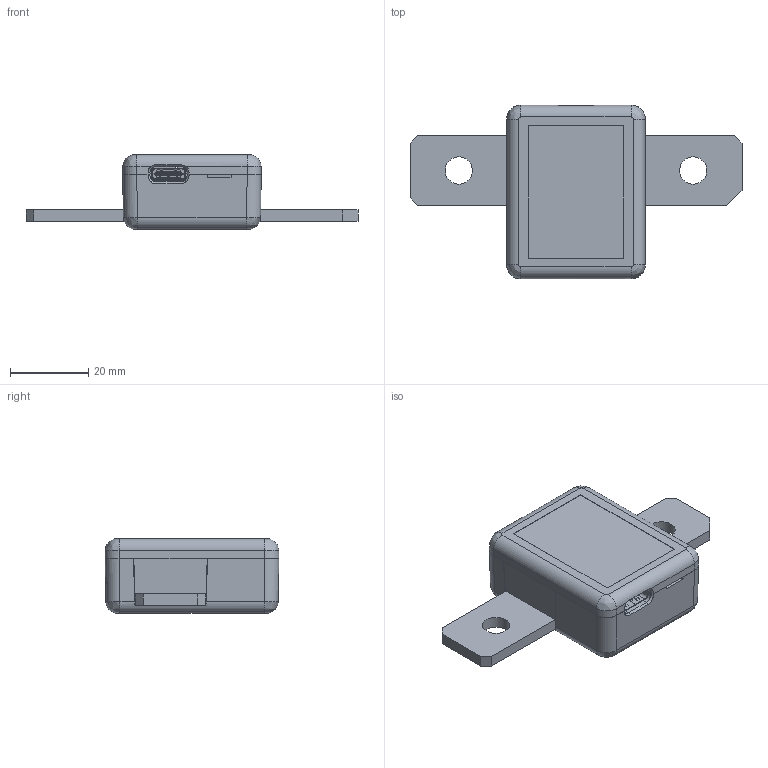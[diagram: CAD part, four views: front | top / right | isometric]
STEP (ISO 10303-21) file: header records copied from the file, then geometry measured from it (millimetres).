
FILE_DESCRIPTION(/* description */ (''),/* implementation_level */ '2;1');
FILE_NAME(/* name */ 'HV-IBSS-USB.stp',/* time_stamp */ '2023-06-26T15:06:06+02:00',/* author */ (''),/* organization */ (''),/* preprocessor_version */ 'ST-DEVELOPER v15.6',/* originating_system */ 'Autodesk Inventor 2015',/* authorisation */ '');
FILE_SCHEMA (('AUTOMOTIVE_DESIGN { 1 0 10303 214 3 1 1 }'));
Products named in the file (181): 1048-03-0001 HV-IBSS-USB_Boden; 1048-03-0002 HV-IBSS-USB_Deckel; Board; Cylinder; 1027227360; TP3; TP2; TP1; R_0603_1608Metric; R21; Open_CASCADE_STEP_translator_6.8_1.1.1; Body; Leader; 975889120; D5; R22; C_0603_1608Metric; C25; CX18; NTCLE100E3103; NTC1; CX4; CX3; R15; R7; R6; C10; C0805C105K5RACTU; C15; ACM2012-T002_DRƒRƒAƒu
ƒƒbƒN(typ_size); ACM2012-T002_“d‹Éƒu\X2\0192
008D0192\X0\bƒN(typ_size); acm2012h-t05; L2; C1; R_0805_2012Metric; L3; C9; Crystal_SMD_3225-4Pin_3.2x2.5mm; Q1; C2 ...
Assembly tree (286 placements, depth 6):
  1048-01-0001 HV-IBSS-USB
    1048-03-0001 HV-IBSS-USB_Boden
    1048-03-0002 HV-IBSS-USB_Deckel
    HV-IBSS-USB_Ver1.0
      Board
      TP3
        1027227360
          Cylinder
      TP2
        1027227360
          Cylinder
      TP1
        1027227360
          Cylinder
      R21
        R_0603_1608Metric
      D5
        975889120
          Body
            Open_CASCADE_STEP_translator_6.8_1.1.1
          Leader  x3
      R22
        R_0603_1608Metric
      C25
        C_0603_1608Metric
      CX18
        C_0603_1608Metric
      NTC1
        NTCLE100E3103
      CX4
        C_0603_1608Metric
      CX3
        C_0603_1608Metric
      R15
        R_0603_1608Metric
      R7
        R_0603_1608Metric
      R6
        R_0603_1608Metric
      C10
        C_0603_1608Metric
      C15
        C0805C105K5RACTU
      L2
        acm2012h-t05
          ACM2012-T002_DRƒRƒAƒu
ƒƒbƒN(typ_size)
          ACM2012-T002_“d‹Éƒu\X2\0192
008D0192\X0\bƒN(typ_size)  x4
      C1
        C_0603_1608Metric
      L3
        R_0805_2012Metric
      C9
        C_0603_1608Metric
      Q1
        Crystal_SMD_3225-4Pin_3.2x2.5mm
      C2
        C_0603_1608Metric
      C4
        C_0603_1608Metric
      C8
Bounding box: 85 x 44.49 x 19.1 mm (x, y, z)
Volume: 17126.2 mm3; surface area: 21555.3 mm2
Topology: 196 solids, 196 shells, 7688 faces, 19978 edges, 12695 vertices
Faces by surface type: plane 5473, cylinder 1928, bspline 142, sphere 114, torus 31
Full cylindrical faces by diameter (mm): 0.2 x2, 0.4 x22, 0.5 x7, 0.6 x2, 0.8 x2, 0.9 x5, 1.016 x3, 1.094 x10, 1.096 x12, 1.1 x4, 1.3 x3, 1.52 x8, 7 x2
Entity records: 147864 total; most frequent: CARTESIAN_POINT 34984, ORIENTED_EDGE 22636, DIRECTION 21900, EDGE_CURVE 11318, LINE 9326, VECTOR 9326, VERTEX_POINT 7271, AXIS2_PLACEMENT_3D 6287
